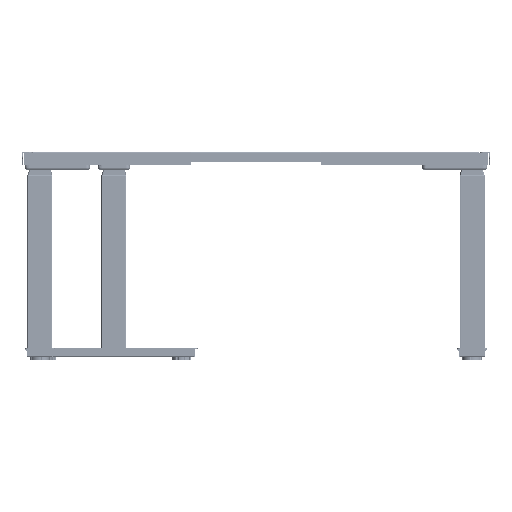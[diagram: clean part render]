
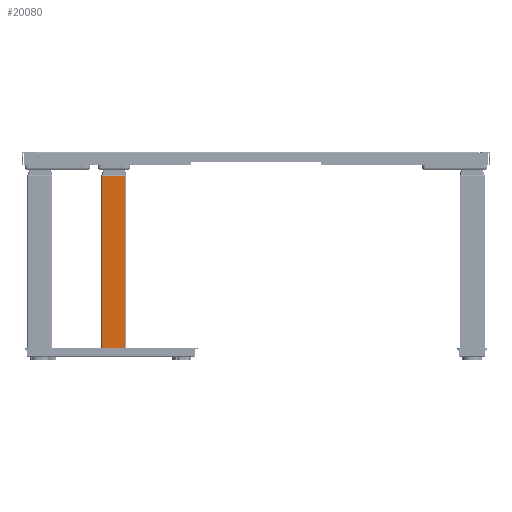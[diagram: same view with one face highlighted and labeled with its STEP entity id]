
A CAD part, left-side view. The second image highlights one B-rep face of the part: STEP entity #20080.
In plain terms, the highlighted planar face has unit normal (-1, 0, 0) as drawn and (0, 1, 0) by its records, which use the part's own axes.
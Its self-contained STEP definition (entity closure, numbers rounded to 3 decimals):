
#19959=CARTESIAN_POINT('Vertex',(-34.5,37.5,516.)) ;
#19962=CARTESIAN_POINT('Line Origine',(-34.5,37.5,258.)) ;
#19966=CARTESIAN_POINT('Vertex',(-34.5,37.5,0.)) ;
#20050=CARTESIAN_POINT('Axis2P3D Location',(-37.5,37.5,0.)) ;
#20055=CARTESIAN_POINT('Line Origine',(34.5,37.5,258.)) ;
#20059=CARTESIAN_POINT('Vertex',(34.5,37.5,0.)) ;
#20061=CARTESIAN_POINT('Vertex',(34.5,37.5,516.)) ;
#20064=CARTESIAN_POINT('Line Origine',(0.,37.5,0.)) ;
#20069=CARTESIAN_POINT('Line Origine',(0.,37.5,516.)) ;
#19963=DIRECTION('Vector Direction',(0.,0.,1.)) ;
#20051=DIRECTION('Axis2P3D Direction',(0.,-1.,0.)) ;
#20052=DIRECTION('Axis2P3D XDirection',(1.,0.,0.)) ;
#20056=DIRECTION('Vector Direction',(0.,0.,1.)) ;
#20065=DIRECTION('Vector Direction',(1.,0.,0.)) ;
#20070=DIRECTION('Vector Direction',(1.,0.,0.)) ;
#20053=AXIS2_PLACEMENT_3D('Plane Axis2P3D',#20050,#20051,#20052) ;
#20075=ORIENTED_EDGE('',*,*,#20063,.F.) ;
#20076=ORIENTED_EDGE('',*,*,#20068,.T.) ;
#20077=ORIENTED_EDGE('',*,*,#19968,.T.) ;
#20078=ORIENTED_EDGE('',*,*,#20073,.F.) ;
#19964=VECTOR('Line Direction',#19963,1.) ;
#20057=VECTOR('Line Direction',#20056,1.) ;
#20066=VECTOR('Line Direction',#20065,1.) ;
#20071=VECTOR('Line Direction',#20070,1.) ;
#20080=ADVANCED_FACE('\X2\96F64EF651E04F554F53\X0\',(#20079),#20054,.F.) ;
#19968=EDGE_CURVE('',#19967,#19960,#19965,.T.) ;
#20063=EDGE_CURVE('',#20060,#20062,#20058,.T.) ;
#20068=EDGE_CURVE('',#20060,#19967,#20067,.F.) ;
#20073=EDGE_CURVE('',#20062,#19960,#20072,.F.) ;
#20074=EDGE_LOOP('',(#20075,#20076,#20077,#20078)) ;
#20079=FACE_OUTER_BOUND('',#20074,.T.) ;
#19965=LINE('Line',#19962,#19964) ;
#20058=LINE('Line',#20055,#20057) ;
#20067=LINE('Line',#20064,#20066) ;
#20072=LINE('Line',#20069,#20071) ;
#20054=PLANE('',#20053) ;
#19960=VERTEX_POINT('',#19959) ;
#19967=VERTEX_POINT('',#19966) ;
#20060=VERTEX_POINT('',#20059) ;
#20062=VERTEX_POINT('',#20061) ;
